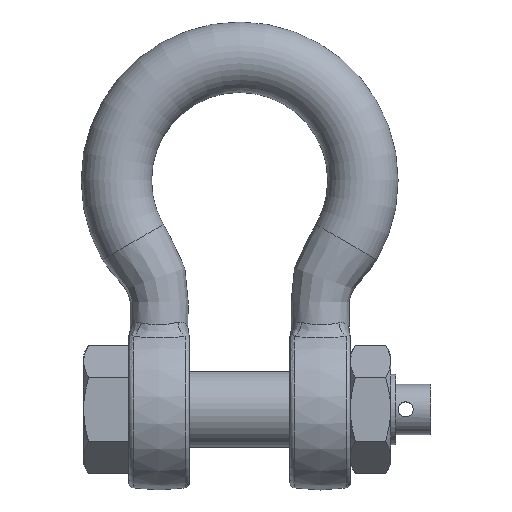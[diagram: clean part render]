
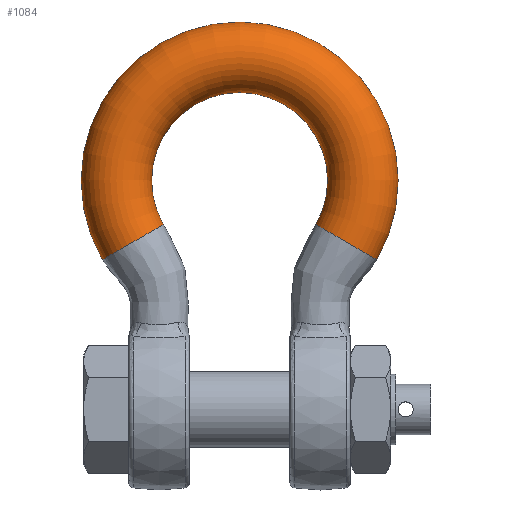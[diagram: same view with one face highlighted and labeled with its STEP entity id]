
A CAD part, top view. The second image highlights one B-rep face of the part: STEP entity #1084.
In plain terms, the highlighted toroidal (fillet/blend) face has major radius 24.5 mm and minor radius 7 mm.
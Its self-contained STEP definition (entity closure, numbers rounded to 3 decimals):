
#127=TOROIDAL_SURFACE('',#1235,24.5,7.);
#195=FACE_OUTER_BOUND('',#268,.T.);
#268=EDGE_LOOP('',(#855,#856,#857,#858,#859,#860));
#410=CIRCLE('',#1236,7.);
#411=CIRCLE('',#1237,7.);
#412=CIRCLE('',#1238,17.5);
#413=CIRCLE('',#1239,7.);
#414=CIRCLE('',#1240,7.);
#491=VERTEX_POINT('',#2725);
#492=VERTEX_POINT('',#2726);
#493=VERTEX_POINT('',#2729);
#494=VERTEX_POINT('',#2731);
#620=EDGE_CURVE('',#491,#492,#410,.T.);
#621=EDGE_CURVE('',#492,#491,#411,.T.);
#622=EDGE_CURVE('',#492,#493,#412,.T.);
#623=EDGE_CURVE('',#493,#494,#413,.T.);
#624=EDGE_CURVE('',#494,#493,#414,.T.);
#855=ORIENTED_EDGE('',*,*,#620,.F.);
#856=ORIENTED_EDGE('',*,*,#621,.F.);
#857=ORIENTED_EDGE('',*,*,#622,.T.);
#858=ORIENTED_EDGE('',*,*,#623,.T.);
#859=ORIENTED_EDGE('',*,*,#624,.T.);
#860=ORIENTED_EDGE('',*,*,#622,.F.);
#1084=ADVANCED_FACE('',(#195),#127,.T.);
#1235=AXIS2_PLACEMENT_3D('',#2724,#1422,#1423);
#1236=AXIS2_PLACEMENT_3D('',#2727,#1424,#1425);
#1237=AXIS2_PLACEMENT_3D('',#2728,#1426,#1427);
#1238=AXIS2_PLACEMENT_3D('',#2730,#1428,#1429);
#1239=AXIS2_PLACEMENT_3D('',#2732,#1430,#1431);
#1240=AXIS2_PLACEMENT_3D('',#2733,#1432,#1433);
#1422=DIRECTION('center_axis',(0.,0.,1.));
#1423=DIRECTION('ref_axis',(0.,1.,0.));
#1424=DIRECTION('center_axis',(0.5,-0.866,0.));
#1425=DIRECTION('ref_axis',(-0.866,-0.5,0.));
#1426=DIRECTION('center_axis',(0.5,-0.866,0.));
#1427=DIRECTION('ref_axis',(-0.866,-0.5,0.));
#1428=DIRECTION('center_axis',(0.,0.,-1.));
#1429=DIRECTION('ref_axis',(0.,1.,0.));
#1430=DIRECTION('center_axis',(0.5,0.866,0.));
#1431=DIRECTION('ref_axis',(0.866,-0.5,0.));
#1432=DIRECTION('center_axis',(0.5,0.866,0.));
#1433=DIRECTION('ref_axis',(0.866,-0.5,0.));
#2724=CARTESIAN_POINT('Origin',(0.,45.5,0.));
#2725=CARTESIAN_POINT('',(-27.28,29.75,0.));
#2726=CARTESIAN_POINT('',(-15.155,36.75,0.));
#2727=CARTESIAN_POINT('Origin',(-21.218,33.25,0.));
#2728=CARTESIAN_POINT('Origin',(-21.218,33.25,0.));
#2729=CARTESIAN_POINT('',(15.155,36.75,0.));
#2730=CARTESIAN_POINT('Origin',(0.,45.5,0.));
#2731=CARTESIAN_POINT('',(27.28,29.75,0.));
#2732=CARTESIAN_POINT('Origin',(21.218,33.25,0.));
#2733=CARTESIAN_POINT('Origin',(21.218,33.25,0.));
